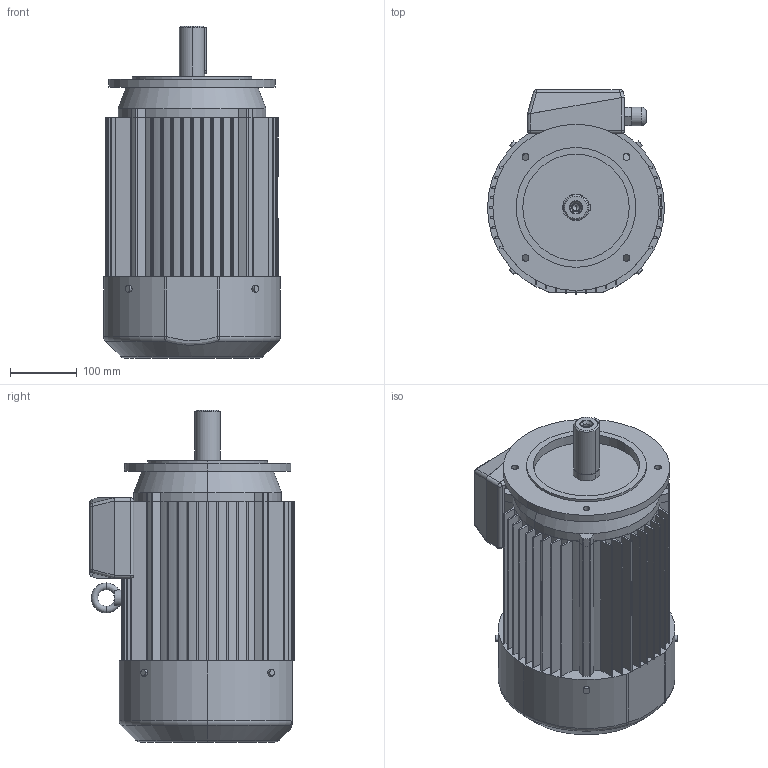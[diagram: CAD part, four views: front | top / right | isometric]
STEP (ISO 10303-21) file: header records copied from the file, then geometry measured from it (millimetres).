
FILE_DESCRIPTION (( 'STEP AP203' ), '1' );
FILE_NAME ('SKg 132S-2B,M-B14-C1.STEP', '2010-02-09T12:37:49', ( 'INDUKTA' ), ( 'CANTONI MOTOR' ), 'SwSTEP 2.0', 'SolidWorks 2003064', '' );
FILE_SCHEMA (( 'CONFIG_CONTROL_DESIGN' ));
Length unit declared in the file: millimetre
Products named in the file (1): SKg 132S-2B,M-B14-C1
Bounding box: 266 x 307 x 499 mm (x, y, z)
Volume: 19692623.2 mm3; surface area: 1024473.7 mm2
Topology: 12 solids, 12 shells, 497 faces, 1328 edges, 851 vertices
Faces by surface type: plane 231, cylinder 186, bspline 43, cone 14, torus 13, sphere 10
Entity records: 19110 total; most frequent: CARTESIAN_POINT 6717, ORIENTED_EDGE 2632, DIRECTION 2510, EDGE_CURVE 1316, AXIS2_PLACEMENT_3D 860, VERTEX_POINT 851, LINE 790, VECTOR 790
